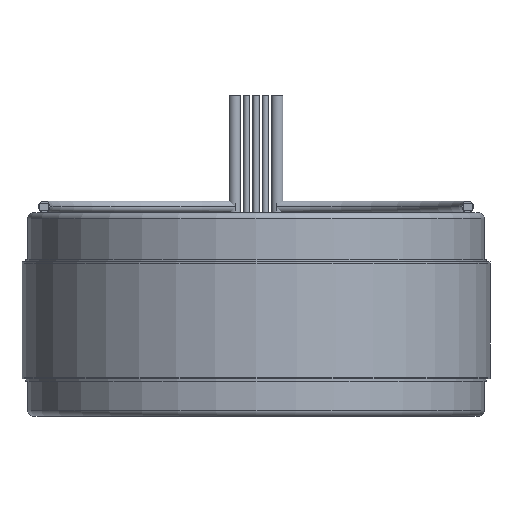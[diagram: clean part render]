
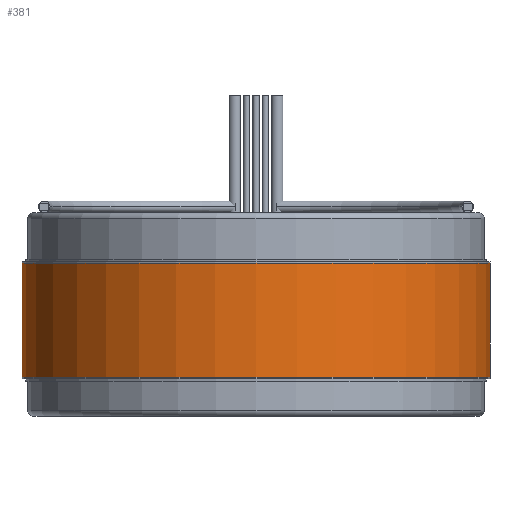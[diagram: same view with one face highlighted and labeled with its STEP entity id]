
A CAD part, front view. The second image highlights one B-rep face of the part: STEP entity #381.
In plain terms, the highlighted cylindrical face has radius 50.8 mm (diameter 101.6 mm), a partial arc.
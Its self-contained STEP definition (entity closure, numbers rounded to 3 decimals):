
#61 = CARTESIAN_POINT ( 'NONE',  ( 0., 0., 12.344 ) ) ;
#72 = CYLINDRICAL_SURFACE ( 'NONE', #2778, 50.8 ) ;
#144 = CARTESIAN_POINT ( 'NONE',  ( 50.8, 0., -12.344 ) ) ;
#234 = FACE_OUTER_BOUND ( 'NONE', #1365, .T. ) ;
#328 = VERTEX_POINT ( 'NONE', #874 ) ;
#381 = ADVANCED_FACE ( 'NONE', ( #234 ), #72, .T. ) ;
#461 = DIRECTION ( 'NONE',  ( 0., 0., -1. ) ) ;
#582 = EDGE_CURVE ( 'NONE', #1935, #837, #3292, .T. ) ;
#698 = LINE ( 'NONE', #2780, #1364 ) ;
#837 = VERTEX_POINT ( 'NONE', #144 ) ;
#874 = CARTESIAN_POINT ( 'NONE',  ( -50.8, 0., 12.344 ) ) ;
#885 = CARTESIAN_POINT ( 'NONE',  ( 0., 0., -12.344 ) ) ;
#1037 = ORIENTED_EDGE ( 'NONE', *, *, #1678, .F. ) ;
#1269 = DIRECTION ( 'NONE',  ( 0., 0., 1. ) ) ;
#1364 = VECTOR ( 'NONE', #3271, 1000. ) ;
#1365 = EDGE_LOOP ( 'NONE', ( #2883, #1037, #2263, #3172 ) ) ;
#1387 = DIRECTION ( 'NONE',  ( 0., 0., -1. ) ) ;
#1608 = DIRECTION ( 'NONE',  ( 1., 0., 0. ) ) ;
#1678 = EDGE_CURVE ( 'NONE', #328, #1935, #1927, .T. ) ;
#1756 = CARTESIAN_POINT ( 'NONE',  ( 50.8, 0., 12.344 ) ) ;
#1927 = CIRCLE ( 'NONE', #2046, 50.8 ) ;
#1935 = VERTEX_POINT ( 'NONE', #3443 ) ;
#1961 = VECTOR ( 'NONE', #461, 1000. ) ;
#2046 = AXIS2_PLACEMENT_3D ( 'NONE', #2080, #1269, #3405 ) ;
#2080 = CARTESIAN_POINT ( 'NONE',  ( 0., 0., 12.344 ) ) ;
#2263 = ORIENTED_EDGE ( 'NONE', *, *, #2939, .T. ) ;
#2388 = VERTEX_POINT ( 'NONE', #2823 ) ;
#2635 = CIRCLE ( 'NONE', #2943, 50.8 ) ;
#2637 = EDGE_CURVE ( 'NONE', #2388, #837, #2635, .T. ) ;
#2752 = DIRECTION ( 'NONE',  ( -1., 0., 0. ) ) ;
#2778 = AXIS2_PLACEMENT_3D ( 'NONE', #61, #1387, #2752 ) ;
#2780 = CARTESIAN_POINT ( 'NONE',  ( -50.8, 0., 12.344 ) ) ;
#2823 = CARTESIAN_POINT ( 'NONE',  ( -50.8, 0., -12.344 ) ) ;
#2883 = ORIENTED_EDGE ( 'NONE', *, *, #582, .F. ) ;
#2939 = EDGE_CURVE ( 'NONE', #328, #2388, #698, .T. ) ;
#2943 = AXIS2_PLACEMENT_3D ( 'NONE', #885, #3010, #1608 ) ;
#3010 = DIRECTION ( 'NONE',  ( 0., 0., 1. ) ) ;
#3172 = ORIENTED_EDGE ( 'NONE', *, *, #2637, .T. ) ;
#3271 = DIRECTION ( 'NONE',  ( 0., 0., -1. ) ) ;
#3292 = LINE ( 'NONE', #1756, #1961 ) ;
#3405 = DIRECTION ( 'NONE',  ( 1., 0., 0. ) ) ;
#3443 = CARTESIAN_POINT ( 'NONE',  ( 50.8, 0., 12.344 ) ) ;
